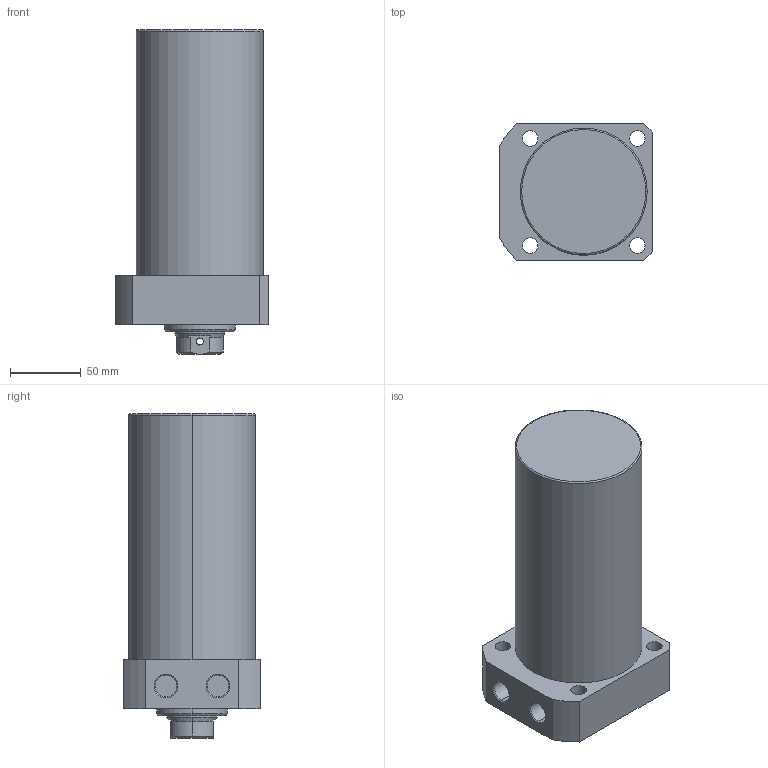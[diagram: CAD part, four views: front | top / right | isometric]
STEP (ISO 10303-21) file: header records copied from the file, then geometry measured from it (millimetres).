
FILE_DESCRIPTION (( 'STEP AP203' ), '1' );
FILE_NAME ('CLLR-090CB-130.STEP', '2019-12-18T06:18:06', ( '' ), ( '' ), 'SwSTEP 2.0', 'SolidWorks 2015', '' );
FILE_SCHEMA (( 'CONFIG_CONTROL_DESIGN' ));
Length unit declared in the file: millimetre
Products named in the file (1): CLLR-090CB-130
Bounding box: 108 x 97 x 230 mm (x, y, z)
Volume: 1455596.6 mm3; surface area: 94407.9 mm2
Topology: 1 solids, 1 shells, 69 faces, 163 edges, 102 vertices
Faces by surface type: cylinder 33, plane 19, cone 15, torus 2
Entity records: 2229 total; most frequent: CARTESIAN_POINT 497, DIRECTION 370, ORIENTED_EDGE 322, EDGE_CURVE 161, AXIS2_PLACEMENT_3D 151, VERTEX_POINT 102, EDGE_LOOP 89, CIRCLE 81
